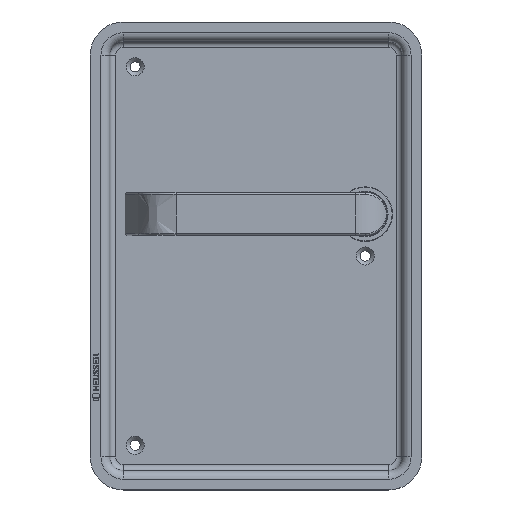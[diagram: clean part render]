
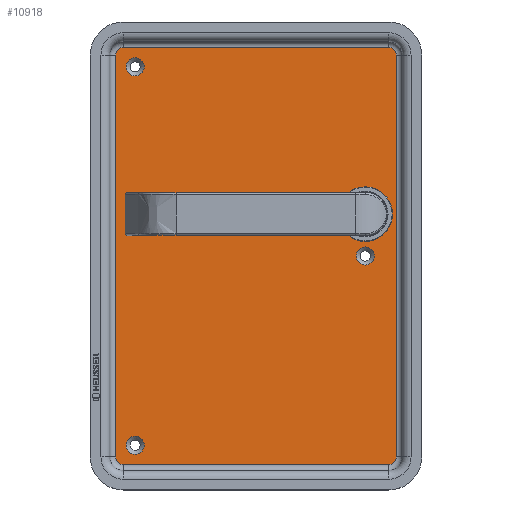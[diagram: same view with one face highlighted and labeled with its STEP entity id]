
A CAD part, top view. The second image highlights one B-rep face of the part: STEP entity #10918.
In plain terms, the highlighted planar face has unit normal (0, 0, 1).
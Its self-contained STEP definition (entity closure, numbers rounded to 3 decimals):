
#679=LINE('',#14654,#1634);
#681=LINE('',#14672,#1636);
#682=LINE('',#14675,#1637);
#684=LINE('',#14692,#1639);
#1634=VECTOR('',#12327,10.);
#1636=VECTOR('',#12349,10.);
#1637=VECTOR('',#12352,10.);
#1639=VECTOR('',#12374,10.);
#2671=FACE_BOUND('',#3463,.T.);
#2672=FACE_BOUND('',#3464,.T.);
#2673=FACE_BOUND('',#3465,.T.);
#2674=FACE_BOUND('',#3466,.T.);
#2827=FACE_OUTER_BOUND('',#3462,.T.);
#3462=EDGE_LOOP('',(#7191,#7192,#7193,#7194,#7195,#7196,#7197,#7198));
#3463=EDGE_LOOP('',(#7199));
#3464=EDGE_LOOP('',(#7200));
#3465=EDGE_LOOP('',(#7201));
#3466=EDGE_LOOP('',(#7202));
#4105=CIRCLE('',#11535,4.);
#4106=CIRCLE('',#11537,4.);
#4113=CIRCLE('',#11547,4.);
#4114=CIRCLE('',#11549,4.);
#4163=CIRCLE('',#11649,4.65);
#4164=CIRCLE('',#11651,4.65);
#4165=CIRCLE('',#11653,14.);
#4166=CIRCLE('',#11654,4.65);
#4302=VERTEX_POINT('',#14648);
#4304=VERTEX_POINT('',#14652);
#4306=VERTEX_POINT('',#14658);
#4307=VERTEX_POINT('',#14662);
#4310=VERTEX_POINT('',#14670);
#4311=VERTEX_POINT('',#14674);
#4314=VERTEX_POINT('',#14682);
#4315=VERTEX_POINT('',#14686);
#4376=VERTEX_POINT('',#14904);
#4377=VERTEX_POINT('',#14907);
#4378=VERTEX_POINT('',#14910);
#4379=VERTEX_POINT('',#14912);
#5352=EDGE_CURVE('',#4304,#4302,#679,.T.);
#5355=EDGE_CURVE('',#4306,#4304,#4105,.T.);
#5356=EDGE_CURVE('',#4302,#4307,#4106,.T.);
#5361=EDGE_CURVE('',#4310,#4306,#681,.T.);
#5362=EDGE_CURVE('',#4307,#4311,#682,.T.);
#5367=EDGE_CURVE('',#4314,#4310,#4113,.T.);
#5368=EDGE_CURVE('',#4311,#4315,#4114,.T.);
#5371=EDGE_CURVE('',#4315,#4314,#684,.T.);
#5472=EDGE_CURVE('',#4376,#4376,#4163,.T.);
#5473=EDGE_CURVE('',#4377,#4377,#4164,.T.);
#5474=EDGE_CURVE('',#4378,#4378,#4165,.T.);
#5475=EDGE_CURVE('',#4379,#4379,#4166,.T.);
#7191=ORIENTED_EDGE('',*,*,#5371,.F.);
#7192=ORIENTED_EDGE('',*,*,#5368,.F.);
#7193=ORIENTED_EDGE('',*,*,#5362,.F.);
#7194=ORIENTED_EDGE('',*,*,#5356,.F.);
#7195=ORIENTED_EDGE('',*,*,#5352,.F.);
#7196=ORIENTED_EDGE('',*,*,#5355,.F.);
#7197=ORIENTED_EDGE('',*,*,#5361,.F.);
#7198=ORIENTED_EDGE('',*,*,#5367,.F.);
#7199=ORIENTED_EDGE('',*,*,#5474,.T.);
#7200=ORIENTED_EDGE('',*,*,#5473,.F.);
#7201=ORIENTED_EDGE('',*,*,#5472,.F.);
#7202=ORIENTED_EDGE('',*,*,#5475,.F.);
#9951=PLANE('',#11652);
#10918=ADVANCED_FACE('',(#2827,#2671,#2672,#2673,#2674),#9951,.T.);
#11535=AXIS2_PLACEMENT_3D('',#14660,#12334,#12335);
#11537=AXIS2_PLACEMENT_3D('',#14663,#12338,#12339);
#11547=AXIS2_PLACEMENT_3D('',#14684,#12362,#12363);
#11549=AXIS2_PLACEMENT_3D('',#14687,#12366,#12367);
#11649=AXIS2_PLACEMENT_3D('',#14905,#12619,#12620);
#11651=AXIS2_PLACEMENT_3D('',#14908,#12623,#12624);
#11652=AXIS2_PLACEMENT_3D('',#14909,#12625,#12626);
#11653=AXIS2_PLACEMENT_3D('',#14911,#12627,#12628);
#11654=AXIS2_PLACEMENT_3D('',#14913,#12629,#12630);
#12327=DIRECTION('',(0.,-1.,0.));
#12334=DIRECTION('center_axis',(0.,0.,-1.));
#12335=DIRECTION('ref_axis',(0.707,0.707,0.));
#12338=DIRECTION('center_axis',(0.,0.,-1.));
#12339=DIRECTION('ref_axis',(0.707,-0.707,0.));
#12349=DIRECTION('',(1.,0.,0.));
#12352=DIRECTION('',(-1.,0.,0.));
#12362=DIRECTION('center_axis',(0.,0.,-1.));
#12363=DIRECTION('ref_axis',(-0.707,0.707,0.));
#12366=DIRECTION('center_axis',(0.,0.,-1.));
#12367=DIRECTION('ref_axis',(-0.707,-0.707,0.));
#12374=DIRECTION('',(0.,1.,0.));
#12619=DIRECTION('center_axis',(0.,0.,1.));
#12620=DIRECTION('ref_axis',(-1.,0.,0.));
#12623=DIRECTION('center_axis',(0.,0.,1.));
#12624=DIRECTION('ref_axis',(-1.,0.,0.));
#12625=DIRECTION('center_axis',(0.,0.,1.));
#12626=DIRECTION('ref_axis',(1.,0.,0.));
#12627=DIRECTION('center_axis',(0.,0.,-1.));
#12628=DIRECTION('ref_axis',(1.,0.,0.));
#12629=DIRECTION('center_axis',(0.,0.,1.));
#12630=DIRECTION('ref_axis',(-1.,0.,0.));
#14648=CARTESIAN_POINT('',(70.865,-93.546,-5.5));
#14652=CARTESIAN_POINT('',(70.865,112.454,-5.5));
#14654=CARTESIAN_POINT('',(70.865,60.954,-5.5));
#14658=CARTESIAN_POINT('',(66.865,116.454,-5.5));
#14660=CARTESIAN_POINT('Origin',(66.865,112.454,-5.5));
#14662=CARTESIAN_POINT('',(66.865,-97.546,-5.5));
#14663=CARTESIAN_POINT('Origin',(66.865,-93.546,-5.5));
#14670=CARTESIAN_POINT('',(-69.135,116.454,-5.5));
#14672=CARTESIAN_POINT('',(-35.135,116.454,-5.5));
#14674=CARTESIAN_POINT('',(-69.135,-97.546,-5.5));
#14675=CARTESIAN_POINT('',(32.865,-97.546,-5.5));
#14682=CARTESIAN_POINT('',(-73.135,112.454,-5.5));
#14684=CARTESIAN_POINT('Origin',(-69.135,112.454,-5.5));
#14686=CARTESIAN_POINT('',(-73.135,-93.546,-5.5));
#14687=CARTESIAN_POINT('Origin',(-69.135,-93.546,-5.5));
#14692=CARTESIAN_POINT('',(-73.135,-42.046,-5.5));
#14904=CARTESIAN_POINT('',(-58.485,106.454,-5.5));
#14905=CARTESIAN_POINT('Origin',(-63.135,106.454,-5.5));
#14907=CARTESIAN_POINT('',(59.515,9.454,-5.5));
#14908=CARTESIAN_POINT('Origin',(54.865,9.454,-5.5));
#14909=CARTESIAN_POINT('Origin',(-1.135,9.454,-5.5));
#14910=CARTESIAN_POINT('',(40.865,30.954,-5.5));
#14911=CARTESIAN_POINT('Origin',(54.865,30.954,-5.5));
#14912=CARTESIAN_POINT('',(-58.485,-87.546,-5.5));
#14913=CARTESIAN_POINT('Origin',(-63.135,-87.546,-5.5));
